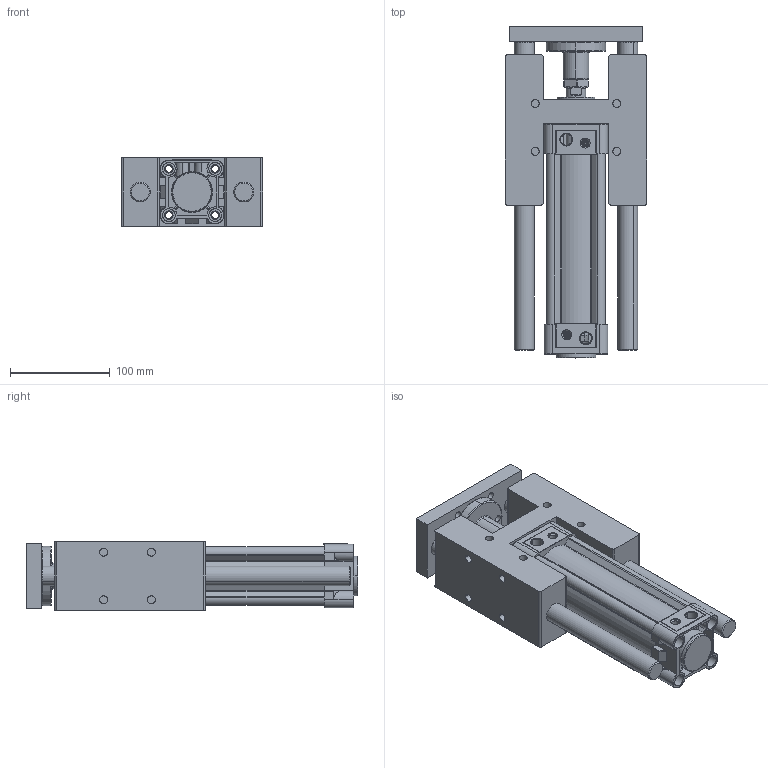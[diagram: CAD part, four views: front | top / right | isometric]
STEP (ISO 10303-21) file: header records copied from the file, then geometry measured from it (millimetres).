
FILE_DESCRIPTION (( 'STEP AP203' ), '1' );
FILE_NAME ('MDNC50X125H-YATAK.STEP', '2016-05-18T11:09:21', ( 'user' ), ( '' ), 'SwSTEP 2.0', 'SolidWorks 2013', '' );
FILE_SCHEMA (( 'CONFIG_CONTROL_DESIGN' ));
Length unit declared in the file: millimetre
Products named in the file (11): 烰 KAPAK  50; Piston Mili 50x125; DNC-H-YATAK 50; SOMUN 50; DNC-H-YATAK M尳 50X125; MDNC50X125H-YATAK; DNC-H-YATAK TABLA 50; DNC-H-YATAK MÝL YATAÐI 50; ARKA KAPAK 50; MDNC 50X125 BORU; ORTA PÝSTON 50
Assembly tree (11 placements, depth 2):
  MDNC50X125H-YATAK
    DNC-H-YATAK 50
    DNC-H-YATAK M尳 50X125  x2
    DNC-H-YATAK TABLA 50
    DNC-H-YATAK MÝL YATAÐI 50
    ARKA KAPAK 50
    MDNC 50X125 BORU
    ORTA PÝSTON 50
    烰 KAPAK  50
    Piston Mili 50x125
    SOMUN 50
Bounding box: 142 x 333.4 x 68.5 mm (x, y, z)
Volume: 1496112.7 mm3; surface area: 396069.2 mm2
Topology: 18 solids, 18 shells, 941 faces, 2393 edges, 1577 vertices
Faces by surface type: cylinder 490, plane 329, cone 76, bspline 34, torus 12
Entity records: 38073 total; most frequent: CARTESIAN_POINT 14923, ORIENTED_EDGE 4750, DIRECTION 4266, EDGE_CURVE 2375, AXIS2_PLACEMENT_3D 1648, VERTEX_POINT 1569, EDGE_LOOP 1120, VECTOR 970
